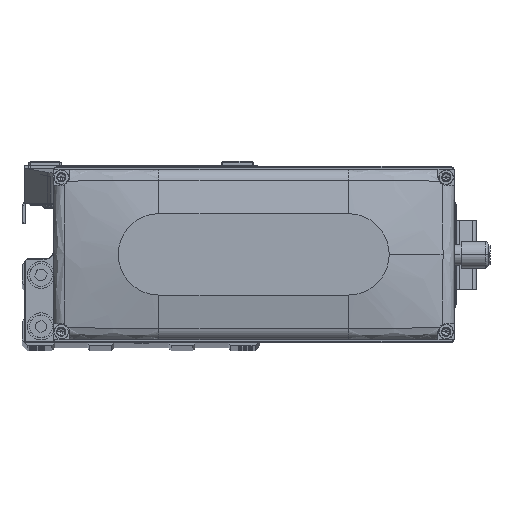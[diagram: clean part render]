
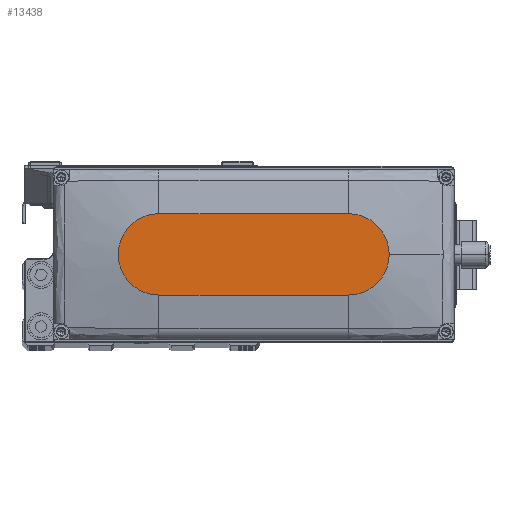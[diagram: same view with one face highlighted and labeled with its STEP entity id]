
A CAD part, top view. The second image highlights one B-rep face of the part: STEP entity #13438.
In plain terms, the highlighted planar face has unit normal (0, 0, 1).
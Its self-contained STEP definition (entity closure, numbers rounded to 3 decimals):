
#1569 = DIRECTION ( 'NONE',  ( 1., 0., 0. ) ) ;
#2000 = AXIS2_PLACEMENT_3D ( 'NONE', #38823, #3271, #19086 ) ;
#2795 = AXIS2_PLACEMENT_3D ( 'NONE', #40431, #4895, #20703 ) ;
#3271 = DIRECTION ( 'NONE',  ( 0., 0., 1. ) ) ;
#4233 = DIRECTION ( 'NONE',  ( -1., 0., 0. ) ) ;
#4895 = DIRECTION ( 'NONE',  ( 0., 0., 1. ) ) ;
#5474 = PLANE ( 'NONE',  #10863 ) ;
#5592 = CARTESIAN_POINT ( 'NONE',  ( 35., 0., 35. ) ) ;
#6487 = VERTEX_POINT ( 'NONE', #16437 ) ;
#6867 = EDGE_CURVE ( 'NONE', #35128, #30033, #25166, .T. ) ;
#9591 = ORIENTED_EDGE ( 'NONE', *, *, #16038, .T. ) ;
#10788 = VERTEX_POINT ( 'NONE', #41171 ) ;
#10863 = AXIS2_PLACEMENT_3D ( 'NONE', #21271, #37098, #1569 ) ;
#13438 = ADVANCED_FACE ( 'NONE', ( #41002 ), #5474, .T. ) ;
#15159 = DIRECTION ( 'NONE',  ( 1., 0., 0. ) ) ;
#16038 = EDGE_CURVE ( 'NONE', #6487, #18555, #23955, .T. ) ;
#16437 = CARTESIAN_POINT ( 'NONE',  ( 35., 15., 35. ) ) ;
#16725 = EDGE_CURVE ( 'NONE', #18555, #10788, #24394, .T. ) ;
#17540 = ORIENTED_EDGE ( 'NONE', *, *, #22454, .T. ) ;
#18555 = VERTEX_POINT ( 'NONE', #43969 ) ;
#19086 = DIRECTION ( 'NONE',  ( 1., 0., 0. ) ) ;
#20703 = DIRECTION ( 'NONE',  ( 1., 0., 0. ) ) ;
#20983 = VECTOR ( 'NONE', #4233, 1000. ) ;
#21271 = CARTESIAN_POINT ( 'NONE',  ( 0., 0., 35. ) ) ;
#21396 = DIRECTION ( 'NONE',  ( 0., 0., 1. ) ) ;
#22454 = EDGE_CURVE ( 'NONE', #30033, #6487, #43365, .T. ) ;
#22981 = CARTESIAN_POINT ( 'NONE',  ( 35., -15., 35. ) ) ;
#23955 = LINE ( 'NONE', #39768, #20983 ) ;
#24394 = CIRCLE ( 'NONE', #2000, 15. ) ;
#25166 = CIRCLE ( 'NONE', #2795, 15. ) ;
#29964 = EDGE_LOOP ( 'NONE', ( #9591, #41139, #49371, #45691, #17540 ) ) ;
#30033 = VERTEX_POINT ( 'NONE', #41741 ) ;
#34867 = LINE ( 'NONE', #50665, #48332 ) ;
#35128 = VERTEX_POINT ( 'NONE', #22981 ) ;
#37098 = DIRECTION ( 'NONE',  ( 0., 0., 1. ) ) ;
#37227 = DIRECTION ( 'NONE',  ( 1., 0., 0. ) ) ;
#38823 = CARTESIAN_POINT ( 'NONE',  ( -35., 0., 35. ) ) ;
#39768 = CARTESIAN_POINT ( 'NONE',  ( -35., 15., 35. ) ) ;
#40431 = CARTESIAN_POINT ( 'NONE',  ( 35., 0., 35. ) ) ;
#41002 = FACE_OUTER_BOUND ( 'NONE', #29964, .T. ) ;
#41139 = ORIENTED_EDGE ( 'NONE', *, *, #16725, .T. ) ;
#41171 = CARTESIAN_POINT ( 'NONE',  ( -35., -15., 35. ) ) ;
#41741 = CARTESIAN_POINT ( 'NONE',  ( 50., 0., 35. ) ) ;
#42894 = EDGE_CURVE ( 'NONE', #10788, #35128, #34867, .T. ) ;
#43365 = CIRCLE ( 'NONE', #49967, 15. ) ;
#43969 = CARTESIAN_POINT ( 'NONE',  ( -35., 15., 35. ) ) ;
#45691 = ORIENTED_EDGE ( 'NONE', *, *, #6867, .T. ) ;
#48332 = VECTOR ( 'NONE', #15159, 1000. ) ;
#49371 = ORIENTED_EDGE ( 'NONE', *, *, #42894, .T. ) ;
#49967 = AXIS2_PLACEMENT_3D ( 'NONE', #5592, #21396, #37227 ) ;
#50665 = CARTESIAN_POINT ( 'NONE',  ( -35., -15., 35. ) ) ;
